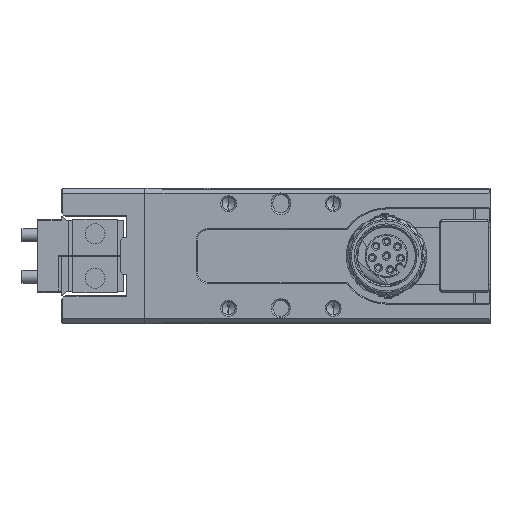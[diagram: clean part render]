
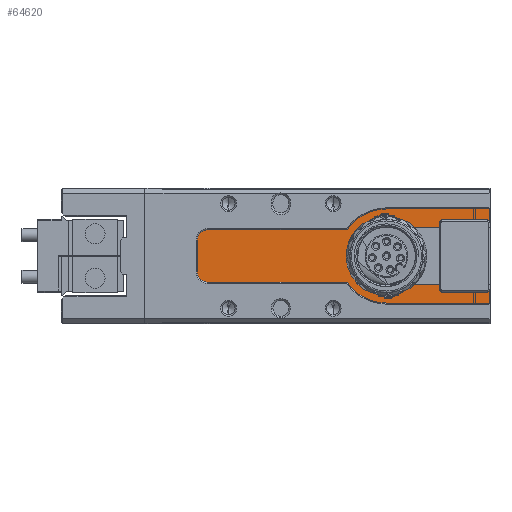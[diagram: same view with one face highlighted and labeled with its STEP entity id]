
A CAD part, left-side view. The second image highlights one B-rep face of the part: STEP entity #64620.
In plain terms, the highlighted planar face has unit normal (-1, 0, 0).
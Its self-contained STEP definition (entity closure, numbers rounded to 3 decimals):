
#421 = ORIENTED_EDGE ( 'NONE', *, *, #70461, .T. ) ;
#1539 = AXIS2_PLACEMENT_3D ( 'NONE', #6326, #69114, #83647 ) ;
#3277 = VERTEX_POINT ( 'NONE', #71968 ) ;
#3420 = VECTOR ( 'NONE', #18449, 1000. ) ;
#6084 = VERTEX_POINT ( 'NONE', #21082 ) ;
#6326 = CARTESIAN_POINT ( 'NONE',  ( -42.783, 25.441, 69. ) ) ;
#6694 = CIRCLE ( 'NONE', #37882, 2. ) ;
#7383 = CARTESIAN_POINT ( 'NONE',  ( -42.783, -1.276, 61. ) ) ;
#7698 = DIRECTION ( 'NONE',  ( 1., 0., 0. ) ) ;
#8051 = CARTESIAN_POINT ( 'NONE',  ( -42.783, -8.759, 66. ) ) ;
#8079 = CARTESIAN_POINT ( 'NONE',  ( -42.783, -28.559, 66. ) ) ;
#9306 = LINE ( 'NONE', #8079, #11472 ) ;
#10265 = CARTESIAN_POINT ( 'NONE',  ( -42.783, 27.441, 71. ) ) ;
#10488 = EDGE_CURVE ( 'NONE', #30184, #83873, #40965, .T. ) ;
#11406 = VECTOR ( 'NONE', #72822, 1000. ) ;
#11443 = CARTESIAN_POINT ( 'NONE',  ( -42.783, -8.759, 57. ) ) ;
#11472 = VECTOR ( 'NONE', #33571, 1000. ) ;
#12099 = CARTESIAN_POINT ( 'NONE',  ( -42.783, -28.559, 75. ) ) ;
#13667 = CARTESIAN_POINT ( 'NONE',  ( -42.783, 25.441, 71. ) ) ;
#13787 = LINE ( 'NONE', #20617, #11406 ) ;
#14198 = DIRECTION ( 'NONE',  ( 0., 1., 0. ) ) ;
#14619 = CARTESIAN_POINT ( 'NONE',  ( -42.783, 27.441, 71. ) ) ;
#14905 = ORIENTED_EDGE ( 'NONE', *, *, #38508, .T. ) ;
#16636 = ORIENTED_EDGE ( 'NONE', *, *, #83188, .T. ) ;
#16685 = CARTESIAN_POINT ( 'NONE',  ( -42.783, -28.559, 66. ) ) ;
#16943 = CARTESIAN_POINT ( 'NONE',  ( -42.783, 25.441, 61. ) ) ;
#17882 = CIRCLE ( 'NONE', #76189, 9. ) ;
#18449 = DIRECTION ( 'NONE',  ( 0., 1., 0. ) ) ;
#19922 = FACE_OUTER_BOUND ( 'NONE', #23175, .T. ) ;
#20338 = VECTOR ( 'NONE', #36617, 1000. ) ;
#20617 = CARTESIAN_POINT ( 'NONE',  ( -42.783, -10.559, 57. ) ) ;
#20727 = DIRECTION ( 'NONE',  ( 0., 0., -1. ) ) ;
#21082 = CARTESIAN_POINT ( 'NONE',  ( -42.783, 27.441, 63. ) ) ;
#21493 = DIRECTION ( 'NONE',  ( -1., 0., 0. ) ) ;
#21604 = DIRECTION ( 'NONE',  ( -1., 0., 0. ) ) ;
#23102 = VERTEX_POINT ( 'NONE', #27328 ) ;
#23175 = EDGE_LOOP ( 'NONE', ( #59144, #38600, #80856, #62710, #421, #53089, #46079, #43273, #83367, #77045, #30925, #14905, #24303, #16636 ) ) ;
#23522 = CARTESIAN_POINT ( 'NONE',  ( -42.783, -28.559, 60.6 ) ) ;
#23705 = CARTESIAN_POINT ( 'NONE',  ( -42.783, -10.559, 75. ) ) ;
#24303 = ORIENTED_EDGE ( 'NONE', *, *, #54931, .T. ) ;
#24560 = CARTESIAN_POINT ( 'NONE',  ( -42.783, 25.441, 63. ) ) ;
#25097 = AXIS2_PLACEMENT_3D ( 'NONE', #48268, #41911, #20727 ) ;
#27328 = CARTESIAN_POINT ( 'NONE',  ( -42.783, -8.759, 60.6 ) ) ;
#28318 = VERTEX_POINT ( 'NONE', #11443 ) ;
#29678 = DIRECTION ( 'NONE',  ( 0., -1., 0. ) ) ;
#29920 = LINE ( 'NONE', #23522, #3420 ) ;
#30184 = VERTEX_POINT ( 'NONE', #78322 ) ;
#30925 = ORIENTED_EDGE ( 'NONE', *, *, #10488, .T. ) ;
#32475 = EDGE_CURVE ( 'NONE', #58444, #69661, #42936, .T. ) ;
#33451 = EDGE_CURVE ( 'NONE', #23102, #58444, #72328, .T. ) ;
#33496 = VERTEX_POINT ( 'NONE', #16943 ) ;
#33571 = DIRECTION ( 'NONE',  ( 0., 0., 1. ) ) ;
#36104 = VERTEX_POINT ( 'NONE', #7383 ) ;
#36269 = DIRECTION ( 'NONE',  ( 0., 0., 1. ) ) ;
#36617 = DIRECTION ( 'NONE',  ( 0., 0., -1. ) ) ;
#37526 = VERTEX_POINT ( 'NONE', #83935 ) ;
#37882 = AXIS2_PLACEMENT_3D ( 'NONE', #24560, #63574, #63990 ) ;
#37938 = CARTESIAN_POINT ( 'NONE',  ( -42.783, -28.559, 71.4 ) ) ;
#37950 = VECTOR ( 'NONE', #29678, 1000. ) ;
#38392 = VERTEX_POINT ( 'NONE', #12099 ) ;
#38508 = EDGE_CURVE ( 'NONE', #83873, #51496, #58451, .T. ) ;
#38600 = ORIENTED_EDGE ( 'NONE', *, *, #46556, .T. ) ;
#39485 = LINE ( 'NONE', #64504, #70153 ) ;
#39963 = CARTESIAN_POINT ( 'NONE',  ( -42.783, -8.759, 66. ) ) ;
#40965 = LINE ( 'NONE', #14619, #66413 ) ;
#41141 = DIRECTION ( 'NONE',  ( 0., 0., 1. ) ) ;
#41702 = CIRCLE ( 'NONE', #57941, 9. ) ;
#41911 = DIRECTION ( 'NONE',  ( 1., 0., 0. ) ) ;
#42707 = EDGE_CURVE ( 'NONE', #69661, #38392, #9306, .T. ) ;
#42936 = LINE ( 'NONE', #67931, #51777 ) ;
#43273 = ORIENTED_EDGE ( 'NONE', *, *, #42707, .T. ) ;
#45801 = PLANE ( 'NONE',  #25097 ) ;
#46079 = ORIENTED_EDGE ( 'NONE', *, *, #32475, .T. ) ;
#46556 = EDGE_CURVE ( 'NONE', #36104, #28318, #41702, .T. ) ;
#47346 = DIRECTION ( 'NONE',  ( 0., 0., 1. ) ) ;
#48268 = CARTESIAN_POINT ( 'NONE',  ( -42.783, -28.559, 66. ) ) ;
#48883 = LINE ( 'NONE', #10265, #20338 ) ;
#50506 = EDGE_CURVE ( 'NONE', #57621, #30184, #17882, .T. ) ;
#51496 = VERTEX_POINT ( 'NONE', #82584 ) ;
#51777 = VECTOR ( 'NONE', #67106, 1000. ) ;
#53089 = ORIENTED_EDGE ( 'NONE', *, *, #33451, .T. ) ;
#54931 = EDGE_CURVE ( 'NONE', #51496, #6084, #48883, .T. ) ;
#57621 = VERTEX_POINT ( 'NONE', #67364 ) ;
#57941 = AXIS2_PLACEMENT_3D ( 'NONE', #8051, #21604, #41141 ) ;
#58444 = VERTEX_POINT ( 'NONE', #75042 ) ;
#58451 = CIRCLE ( 'NONE', #1539, 2. ) ;
#59144 = ORIENTED_EDGE ( 'NONE', *, *, #81584, .T. ) ;
#59558 = VECTOR ( 'NONE', #36269, 1000. ) ;
#60130 = AXIS2_PLACEMENT_3D ( 'NONE', #39963, #7698, #66604 ) ;
#62710 = ORIENTED_EDGE ( 'NONE', *, *, #73104, .T. ) ;
#63574 = DIRECTION ( 'NONE',  ( -1., 0., 0. ) ) ;
#63990 = DIRECTION ( 'NONE',  ( 0., 0., -1. ) ) ;
#64151 = EDGE_CURVE ( 'NONE', #28318, #37526, #13787, .T. ) ;
#64504 = CARTESIAN_POINT ( 'NONE',  ( -42.783, 27.441, 61. ) ) ;
#64620 = ADVANCED_FACE ( 'NONE', ( #19922 ), #45801, .F. ) ;
#66413 = VECTOR ( 'NONE', #14198, 1000. ) ;
#66604 = DIRECTION ( 'NONE',  ( 0., 0., -1. ) ) ;
#67106 = DIRECTION ( 'NONE',  ( 0., -1., 0. ) ) ;
#67364 = CARTESIAN_POINT ( 'NONE',  ( -42.783, -8.759, 75. ) ) ;
#67931 = CARTESIAN_POINT ( 'NONE',  ( -42.783, -28.559, 71.4 ) ) ;
#68241 = LINE ( 'NONE', #23705, #37950 ) ;
#69114 = DIRECTION ( 'NONE',  ( -1., 0., 0. ) ) ;
#69661 = VERTEX_POINT ( 'NONE', #37938 ) ;
#70153 = VECTOR ( 'NONE', #78160, 1000. ) ;
#70461 = EDGE_CURVE ( 'NONE', #3277, #23102, #29920, .T. ) ;
#71968 = CARTESIAN_POINT ( 'NONE',  ( -42.783, -28.559, 60.6 ) ) ;
#72328 = CIRCLE ( 'NONE', #60130, 5.4 ) ;
#72822 = DIRECTION ( 'NONE',  ( 0., -1., 0. ) ) ;
#73104 = EDGE_CURVE ( 'NONE', #37526, #3277, #81303, .T. ) ;
#74704 = EDGE_CURVE ( 'NONE', #57621, #38392, #68241, .T. ) ;
#75042 = CARTESIAN_POINT ( 'NONE',  ( -42.783, -8.759, 71.4 ) ) ;
#76189 = AXIS2_PLACEMENT_3D ( 'NONE', #79711, #21493, #47346 ) ;
#77045 = ORIENTED_EDGE ( 'NONE', *, *, #50506, .T. ) ;
#78160 = DIRECTION ( 'NONE',  ( 0., -1., 0. ) ) ;
#78322 = CARTESIAN_POINT ( 'NONE',  ( -42.783, -1.276, 71. ) ) ;
#79711 = CARTESIAN_POINT ( 'NONE',  ( -42.783, -8.759, 66. ) ) ;
#80856 = ORIENTED_EDGE ( 'NONE', *, *, #64151, .T. ) ;
#81303 = LINE ( 'NONE', #16685, #59558 ) ;
#81584 = EDGE_CURVE ( 'NONE', #33496, #36104, #39485, .T. ) ;
#82584 = CARTESIAN_POINT ( 'NONE',  ( -42.783, 27.441, 69. ) ) ;
#83188 = EDGE_CURVE ( 'NONE', #6084, #33496, #6694, .T. ) ;
#83367 = ORIENTED_EDGE ( 'NONE', *, *, #74704, .F. ) ;
#83647 = DIRECTION ( 'NONE',  ( 0., 0., -1. ) ) ;
#83873 = VERTEX_POINT ( 'NONE', #13667 ) ;
#83935 = CARTESIAN_POINT ( 'NONE',  ( -42.783, -28.559, 57. ) ) ;
